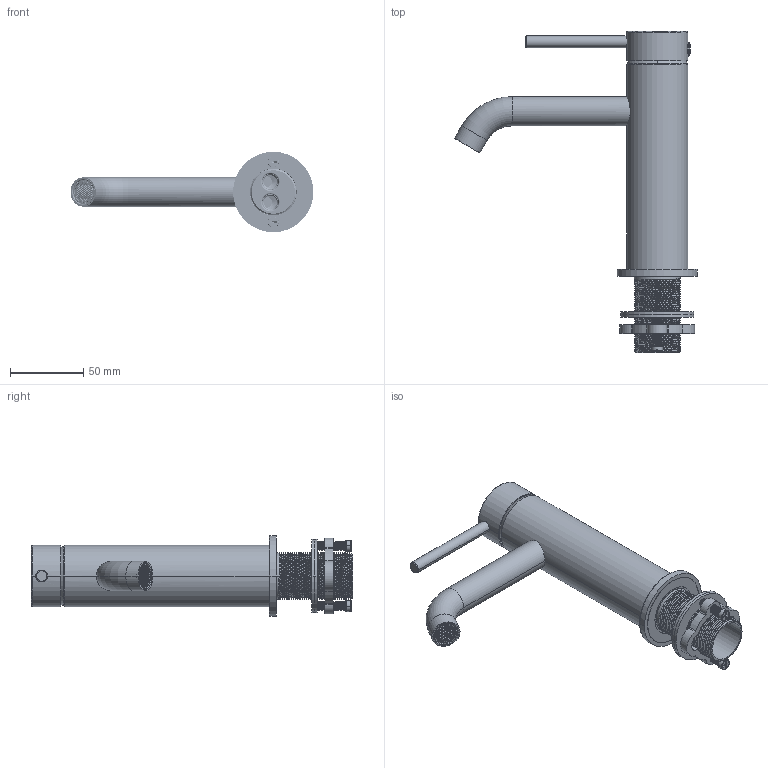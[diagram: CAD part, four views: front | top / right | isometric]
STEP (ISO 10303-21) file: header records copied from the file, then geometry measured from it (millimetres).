
FILE_DESCRIPTION((''),'2;1');
FILE_NAME('OM-88139017_ASM','2024-06-20T09:02:59',('GL-JISHU1'),(''),'CREO PARAMETRIC BY PTC INC, 2021063','CREO PARAMETRIC BY PTC INC, 2021063','');
FILE_SCHEMA(('AUTOMOTIVE_DESIGN { 1 0 10303 214 1 1 1 1 }'));
Length unit declared in the file: millimetre
Products named in the file (34): 4TG-001017-AJJ_AF0; 4FZ-001042-AJJ_AF0; 4ZT-181013-AJJ1_ASM; 4WG-181013-GJJ_AF0; 4JT-101002-AJJ_AF0; 4SZ-181013-GJJ_ASM; 5ZT-181013-ACR_ASM; _X2_96F64EF651E04F554F53_X0_; _X2_51E04F554F53_X0__2; _X2_51E04F554F53_X0__3; _X2_51E04F554F53_X0__4; _X2_51E04F554F53_X0__5; _X2_51E04F554F53_X0__6_1; _X2_51E04F554F53_X0__6_2; 3FX-001078-MAA_ASM; 3YG-001009-AJJ; 3WD-001058-MAA; 5DZ-001049-ACR; 5BS-181013-1-ACR; 5BS-181013-2-ACR; 3LS-001077-JAA; 3LS-001064-JAA; 3SN-001001-MCR; 181013000_ASM; 3JQ-001544-NAA; 3ZG-010027-MCR; 3JQ-001195-NAA_AF0; 3JQ-001491-NAA; 3PD-001001-KAA; 3LM-001001-AJJ; 3LS-001287-JAA; 3LG-001001-KAA; M32-600001_ASM; OM-88139017_ASM
Assembly tree (34 placements, depth 4):
  OM-88139017_ASM
    5ZT-181013-ACR_ASM
      4ZT-181013-AJJ1_ASM
        4TG-001017-AJJ_AF0
        4FZ-001042-AJJ_AF0
      4SZ-181013-GJJ_ASM
        4WG-181013-GJJ_AF0
        4JT-101002-AJJ_AF0
    3FX-001078-MAA_ASM
      _X2_96F64EF651E04F554F53_X0_
      _X2_51E04F554F53_X0__2
      _X2_51E04F554F53_X0__3
      _X2_51E04F554F53_X0__4
      _X2_51E04F554F53_X0__5
      _X2_51E04F554F53_X0__6_1
      _X2_51E04F554F53_X0__6_2
    3YG-001009-AJJ
    3WD-001058-MAA
    5DZ-001049-ACR
    181013000_ASM
      5BS-181013-1-ACR
      5BS-181013-2-ACR
      3LS-001077-JAA
      3LS-001064-JAA
      3SN-001001-MCR
    3JQ-001544-NAA
    3ZG-010027-MCR
    3JQ-001195-NAA_AF0
    M32-600001_ASM
      3JQ-001491-NAA
      3PD-001001-KAA
      3LM-001001-AJJ
      3LS-001287-JAA  x2
      3LG-001001-KAA
Bounding box: 166.14 x 219.5 x 55 mm (x, y, z)
Volume: 125048.9 mm3; surface area: 136999.1 mm2
Topology: 29 solids, 31 shells, 7446 faces, 21050 edges, 13832 vertices
Faces by surface type: plane 6131, cylinder 812, torus 234, bspline 125, cone 114, sphere 30
Entity records: 382388 total; most frequent: CARTESIAN_POINT 103970, ORIENTED_EDGE 41546, DIRECTION 27549, PRESENTATION_STYLE_ASSIGNMENT 25479, EDGE_CURVE 20773, STYLED_ITEM 20522, CURVE_STYLE 19659, VERTEX_POINT 13678
